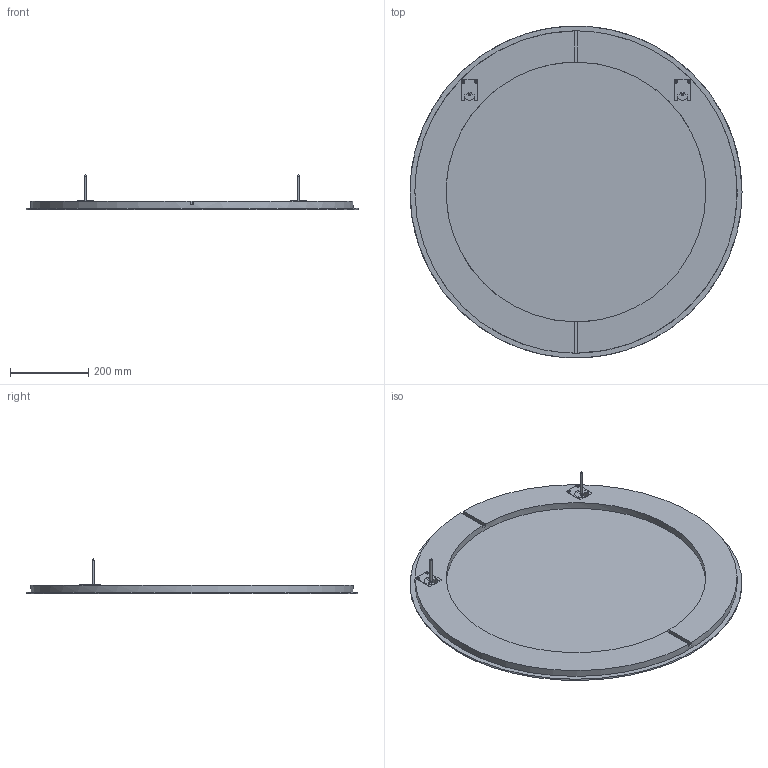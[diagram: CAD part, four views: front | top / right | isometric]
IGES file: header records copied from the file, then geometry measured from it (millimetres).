
Global section: file name: 3D Dosyası,; native system: Autodesk Inventor 2024; preprocessor: unknown; author: pcs35; date: 20250903.155436; units: millimetre
Bounding box: 850 x 849.22 x 92 mm (x, y, z)
Volume: 5604816.9 mm3; surface area: 1619033.4 mm2
Topology: 14 solids, 14 shells, 422 faces, 1082 edges, 663 vertices
Faces by surface type: bspline 422
